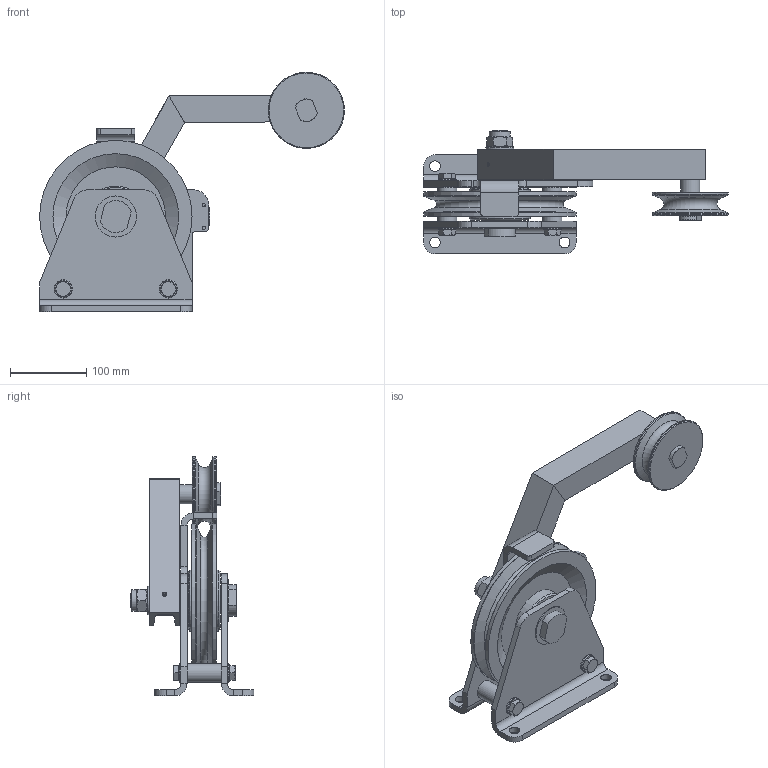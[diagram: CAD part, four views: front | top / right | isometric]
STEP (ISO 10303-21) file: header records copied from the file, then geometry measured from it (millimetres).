
FILE_DESCRIPTION(/* description */ ('Seilrolle mit Schlaffseilschalter SC 200 G komplett'),/* implementation_level */ '2;1');
FILE_NAME(/* name */ 'Z:\Workspace\03 Seilrollen\1.411 Seilrolle mit Schlaffseilschalter\1.411.06 Seilrolle mit Schlaffseilschalter SC 200 G\1.411.06 Seilrolle mit Schlaffseilschalter SC 200 G komplett.stp',/* time_stamp */ '2021-10-26T08:14:57+02:00',/* author */ ('cad-user'),/* organization */ (''),/* preprocessor_version */ 'ST-DEVELOPER v18',/* originating_system */ 'Autodesk Inventor 2020',/* authorisation */ '');
FILE_SCHEMA (('AUTOMOTIVE_DESIGN { 1 0 10303 214 3 1 1 }'));
Length unit declared in the file: millimetre
Products named in the file (24): 1.411.06 Seilrolle mit Schlaffseilschalter SC 200 G komplett; 1.401.06 Seilrolle ø200 Buchse komplett; 1.401.06 Seilrolle ø200 Buchse B=42; 3020DU; 1.411.03 Seilrolle ø100 Buchse; 1.411.06.03 Arm Schweißteil; DIN1026 - U 40 - 200; DIN1026 - U 40 - 200_1; 1.411.06.06 Schraube; 1.411.06.07 Distanzring; 1.411.06.08 Achse; DIN 125-1 - B 13; DIN 985 - M12; DIN 914 - M6 x 16; 1110209000; PCMW 32 54 01.5 B Anlaufscheibe; DIN 912 - M5 x 35; DIN 985 - M20; DIN 125-1 - B 21; DIN 125-1 - B 13_1; DIN 933 - M12  x 18; 1.405.06.01 Distanzachse; 1.405.06.01 Blech; 1.405.06.01 Blech_1
Assembly tree (35 placements, depth 3):
  1.411.06 Seilrolle mit Schlaffseilschalter SC 200 G komplett
    1.401.06 Seilrolle ø200 Buchse komplett
      1.401.06 Seilrolle ø200 Buchse B=42
      3020DU  x2
    1.411.03 Seilrolle ø100 Buchse
    1.411.06.03 Arm Schweißteil
      DIN1026 - U 40 - 200
      DIN1026 - U 40 - 200_1
    1.411.06.06 Schraube
    1.411.06.07 Distanzring
    1.411.06.08 Achse
    DIN 125-1 - B 13
    DIN 985 - M12
    DIN 914 - M6 x 16
    1110209000
    PCMW 32 54 01.5 B Anlaufscheibe  x2
    DIN 912 - M5 x 35  x4
    DIN 985 - M20
    DIN 125-1 - B 21
    DIN 125-1 - B 13_1  x4
    DIN 933 - M12  x 18  x4
    1.405.06.01 Distanzachse  x2
    1.405.06.01 Blech
    1.405.06.01 Blech_1
Bounding box: 399.94 x 162 x 314.33 mm (x, y, z)
Volume: 1885188.1 mm3; surface area: 472535.7 mm2
Topology: 34 solids, 39 shells, 872 faces, 2185 edges, 1428 vertices
Faces by surface type: plane 528, cylinder 220, cone 106, torus 12, sphere 6
Full cylindrical faces by diameter (mm): 2.05 x4, 3.8 x4, 4 x2, 4.1 x2, 4.134 x4, 4.3 x4, 4.917 x1, 5 x4, 5.3 x2, 6 x1, 7 x2, 8.5 x4, 10 x1, 10.106 x1, 11.053 x4, 12 x5, 13 x6, 13.835 x4, 14 x5, 15 x1, 17.2 x5, 17.294 x1, 17.4 x1, 18 x1, 18.05 x1, 19.06 x1, 20 x13, 21 x2, 23.3 x1, 24 x5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
Entity records: 23977 total; most frequent: CARTESIAN_POINT 4463, DIRECTION 4033, ORIENTED_EDGE 3682, EDGE_CURVE 1841, AXIS2_PLACEMENT_3D 1500, VERTEX_POINT 1201, LINE 1033, VECTOR 1033
